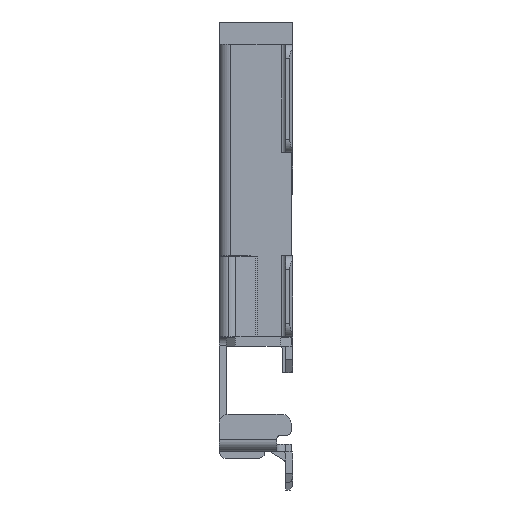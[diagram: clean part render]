
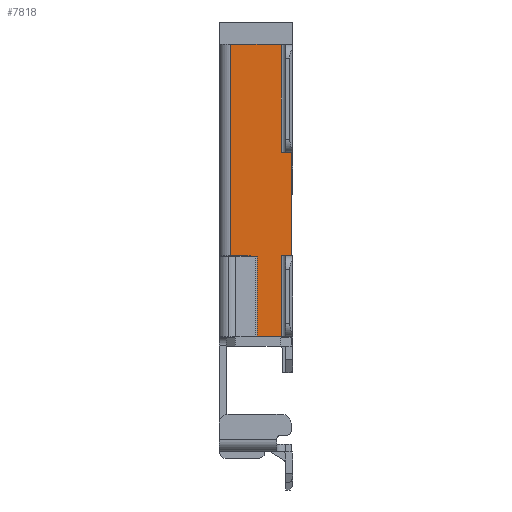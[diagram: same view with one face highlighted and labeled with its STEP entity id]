
A CAD part, left-side view. The second image highlights one B-rep face of the part: STEP entity #7818.
In plain terms, the highlighted planar face has unit normal (-1, 0, 0).
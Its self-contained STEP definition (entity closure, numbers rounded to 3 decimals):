
#305 = ORIENTED_EDGE ( 'NONE', *, *, #29273, .F. ) ;
#828 = EDGE_CURVE ( 'NONE', #14576, #36086, #19873, .T. ) ;
#1488 = DIRECTION ( 'NONE',  ( 0., -1., 0. ) ) ;
#1630 = EDGE_CURVE ( 'NONE', #29398, #28764, #22661, .T. ) ;
#2563 = CARTESIAN_POINT ( 'NONE',  ( -9.665, 0.02, -4.7 ) ) ;
#2850 = LINE ( 'NONE', #39256, #24156 ) ;
#3537 = VECTOR ( 'NONE', #34541, 1000. ) ;
#3831 = EDGE_CURVE ( 'NONE', #29420, #6453, #37197, .T. ) ;
#4527 = EDGE_CURVE ( 'NONE', #7904, #29420, #26747, .T. ) ;
#5556 = CARTESIAN_POINT ( 'NONE',  ( -9.665, 0.398, -4.7 ) ) ;
#5760 = DIRECTION ( 'NONE',  ( 0., 0., -1. ) ) ;
#5840 = CARTESIAN_POINT ( 'NONE',  ( -9.665, 0.13, -2.05 ) ) ;
#6250 = EDGE_CURVE ( 'NONE', #36086, #21640, #28041, .T. ) ;
#6438 = CARTESIAN_POINT ( 'NONE',  ( -9.665, 0.13, -4.25 ) ) ;
#6453 = VERTEX_POINT ( 'NONE', #30379 ) ;
#6583 = VECTOR ( 'NONE', #5760, 1000. ) ;
#6589 = DIRECTION ( 'NONE',  ( 0., 1., 0. ) ) ;
#6847 = ORIENTED_EDGE ( 'NONE', *, *, #21486, .T. ) ;
#7216 = EDGE_CURVE ( 'NONE', #16535, #6453, #2850, .T. ) ;
#7283 = CARTESIAN_POINT ( 'NONE',  ( -9.665, 0.69, -2.625 ) ) ;
#7818 = ADVANCED_FACE ( 'NONE', ( #9407 ), #38779, .T. ) ;
#7904 = VERTEX_POINT ( 'NONE', #9053 ) ;
#9053 = CARTESIAN_POINT ( 'NONE',  ( -9.665, 0.69, -1.45 ) ) ;
#9057 = EDGE_CURVE ( 'NONE', #29398, #7904, #36827, .T. ) ;
#9100 = VECTOR ( 'NONE', #24551, 1000. ) ;
#9130 = DIRECTION ( 'NONE',  ( 0., 0., 1. ) ) ;
#9407 = FACE_OUTER_BOUND ( 'NONE', #17066, .T. ) ;
#9594 = EDGE_CURVE ( 'NONE', #21640, #28764, #36308, .T. ) ;
#9610 = CARTESIAN_POINT ( 'NONE',  ( -9.665, 0.355, -1.45 ) ) ;
#9768 = VERTEX_POINT ( 'NONE', #31132 ) ;
#9996 = CARTESIAN_POINT ( 'NONE',  ( -9.665, 0.13, -2.65 ) ) ;
#10291 = ORIENTED_EDGE ( 'NONE', *, *, #3831, .T. ) ;
#10892 = ORIENTED_EDGE ( 'NONE', *, *, #9594, .T. ) ;
#11834 = VECTOR ( 'NONE', #20955, 1000. ) ;
#11897 = VECTOR ( 'NONE', #28428, 1000. ) ;
#12086 = CARTESIAN_POINT ( 'NONE',  ( -9.665, 0.02, -3.8 ) ) ;
#12178 = ORIENTED_EDGE ( 'NONE', *, *, #4527, .T. ) ;
#13320 = CARTESIAN_POINT ( 'NONE',  ( -9.665, 0.02, -3.075 ) ) ;
#13517 = CARTESIAN_POINT ( 'NONE',  ( -9.665, 0.355, -4.7 ) ) ;
#14576 = VERTEX_POINT ( 'NONE', #31035 ) ;
#14724 = DIRECTION ( 'NONE',  ( 0., 0., 1. ) ) ;
#16449 = ORIENTED_EDGE ( 'NONE', *, *, #1630, .F. ) ;
#16535 = VERTEX_POINT ( 'NONE', #5556 ) ;
#17066 = EDGE_LOOP ( 'NONE', ( #305, #23894, #32795, #10892, #16449, #35126, #12178, #10291, #18651, #6847 ) ) ;
#18162 = DIRECTION ( 'NONE',  ( 0., 1., 0. ) ) ;
#18651 = ORIENTED_EDGE ( 'NONE', *, *, #7216, .F. ) ;
#19873 = LINE ( 'NONE', #21131, #11834 ) ;
#20955 = DIRECTION ( 'NONE',  ( 0., -1., 0. ) ) ;
#21131 = CARTESIAN_POINT ( 'NONE',  ( -9.665, 0.355, -3.8 ) ) ;
#21486 = EDGE_CURVE ( 'NONE', #16535, #9768, #31318, .T. ) ;
#21640 = VERTEX_POINT ( 'NONE', #23445 ) ;
#22052 = VECTOR ( 'NONE', #29821, 1000. ) ;
#22661 = LINE ( 'NONE', #5840, #6583 ) ;
#22959 = CARTESIAN_POINT ( 'NONE',  ( -9.665, 0.69, -3.8 ) ) ;
#23276 = VECTOR ( 'NONE', #1488, 1000. ) ;
#23445 = CARTESIAN_POINT ( 'NONE',  ( -9.665, 0.02, -2.65 ) ) ;
#23605 = CARTESIAN_POINT ( 'NONE',  ( -9.665, 0.608, -3.8 ) ) ;
#23894 = ORIENTED_EDGE ( 'NONE', *, *, #828, .T. ) ;
#24156 = VECTOR ( 'NONE', #9130, 1000. ) ;
#24551 = DIRECTION ( 'NONE',  ( 0., 0., -1. ) ) ;
#25201 = LINE ( 'NONE', #6438, #9100 ) ;
#26747 = LINE ( 'NONE', #7283, #3537 ) ;
#26891 = VECTOR ( 'NONE', #6589, 1000. ) ;
#28041 = LINE ( 'NONE', #13320, #11897 ) ;
#28428 = DIRECTION ( 'NONE',  ( 0., 0., 1. ) ) ;
#28764 = VERTEX_POINT ( 'NONE', #9996 ) ;
#29190 = VECTOR ( 'NONE', #18162, 1000. ) ;
#29273 = EDGE_CURVE ( 'NONE', #14576, #9768, #25201, .T. ) ;
#29398 = VERTEX_POINT ( 'NONE', #37357 ) ;
#29420 = VERTEX_POINT ( 'NONE', #22959 ) ;
#29821 = DIRECTION ( 'NONE',  ( 0., -1., 0. ) ) ;
#30379 = CARTESIAN_POINT ( 'NONE',  ( -9.665, 0.398, -3.8 ) ) ;
#31035 = CARTESIAN_POINT ( 'NONE',  ( -9.665, 0.13, -3.8 ) ) ;
#31132 = CARTESIAN_POINT ( 'NONE',  ( -9.665, 0.13, -4.7 ) ) ;
#31318 = LINE ( 'NONE', #13517, #23276 ) ;
#32795 = ORIENTED_EDGE ( 'NONE', *, *, #6250, .T. ) ;
#32883 = DIRECTION ( 'NONE',  ( -1., 0., 0. ) ) ;
#34541 = DIRECTION ( 'NONE',  ( 0., 0., -1. ) ) ;
#34792 = AXIS2_PLACEMENT_3D ( 'NONE', #2563, #32883, #14724 ) ;
#35126 = ORIENTED_EDGE ( 'NONE', *, *, #9057, .T. ) ;
#36086 = VERTEX_POINT ( 'NONE', #12086 ) ;
#36308 = LINE ( 'NONE', #36321, #29190 ) ;
#36321 = CARTESIAN_POINT ( 'NONE',  ( -9.665, 0.355, -2.65 ) ) ;
#36827 = LINE ( 'NONE', #9610, #26891 ) ;
#37197 = LINE ( 'NONE', #23605, #22052 ) ;
#37357 = CARTESIAN_POINT ( 'NONE',  ( -9.665, 0.13, -1.45 ) ) ;
#38779 = PLANE ( 'NONE',  #34792 ) ;
#39256 = CARTESIAN_POINT ( 'NONE',  ( -9.665, 0.398, -4.25 ) ) ;
